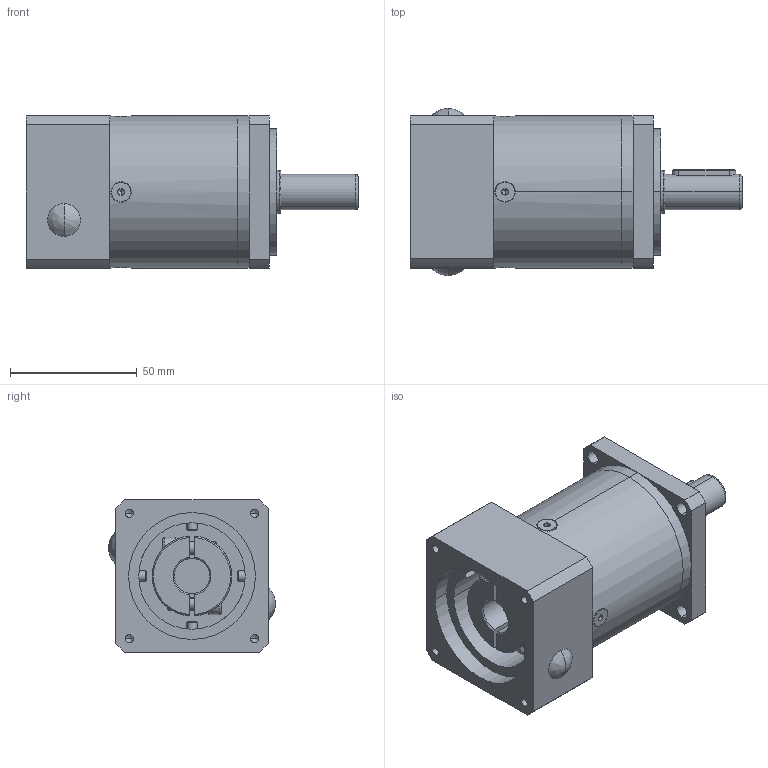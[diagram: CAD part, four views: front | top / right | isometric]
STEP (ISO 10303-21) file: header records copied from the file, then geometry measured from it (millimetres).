
FILE_DESCRIPTION (( 'STEP AP214' ), '1' );
FILE_NAME ('PLF-060-L2-S2-P2 14-50-70-M4.STEP', '2023-08-16T05:46:20', ( '微软用户' ), ( '微软中国' ), 'SwSTEP 2.0', 'SolidWorks 2018', '' );
FILE_SCHEMA (( 'AUTOMOTIVE_DESIGN' ));
Length unit declared in the file: millimetre
Products named in the file (8): PLF-060怀堤傷裔-俋倛; hexagon socket countersunk head screws gb_GB_FASTENER_SCREWS_HSCHS M4X12-N; PLF-060黑裔9; hexagon socket head cap screws gb_GB_FASTENER_SCREWS_HSHCS M5X16-N; PLF-060薊粣ん-俋倛14; PLF-060输入端盖-外形50-M4-70; PLF-060二级齿圈-外形; PLF-060-L2-S2-P2 14-50-70-M4
Assembly tree (12 placements, depth 2):
  PLF-060-L2-S2-P2 14-50-70-M4
    PLF-060怀堤傷裔-俋倛
    PLF-060二级齿圈-外形
    PLF-060输入端盖-外形50-M4-70
    PLF-060薊粣ん-俋倛14
    hexagon socket head cap screws gb_GB_FASTENER_SCREWS_HSHCS M5X16-N  x2
    PLF-060黑裔9  x2
    hexagon socket countersunk head screws gb_GB_FASTENER_SCREWS_HSCHS M4X12-N  x4
Bounding box: 131 x 66 x 60 mm (x, y, z)
Volume: 186123 mm3; surface area: 59583.8 mm2
Topology: 14 solids, 14 shells, 380 faces, 916 edges, 559 vertices
Faces by surface type: plane 153, cylinder 130, cone 65, bspline 32
Entity records: 8775 total; most frequent: CARTESIAN_POINT 2455, DIRECTION 1297, ORIENTED_EDGE 1208, EDGE_CURVE 604, AXIS2_PLACEMENT_3D 513, VERTEX_POINT 384, EDGE_LOOP 298, LINE 271
